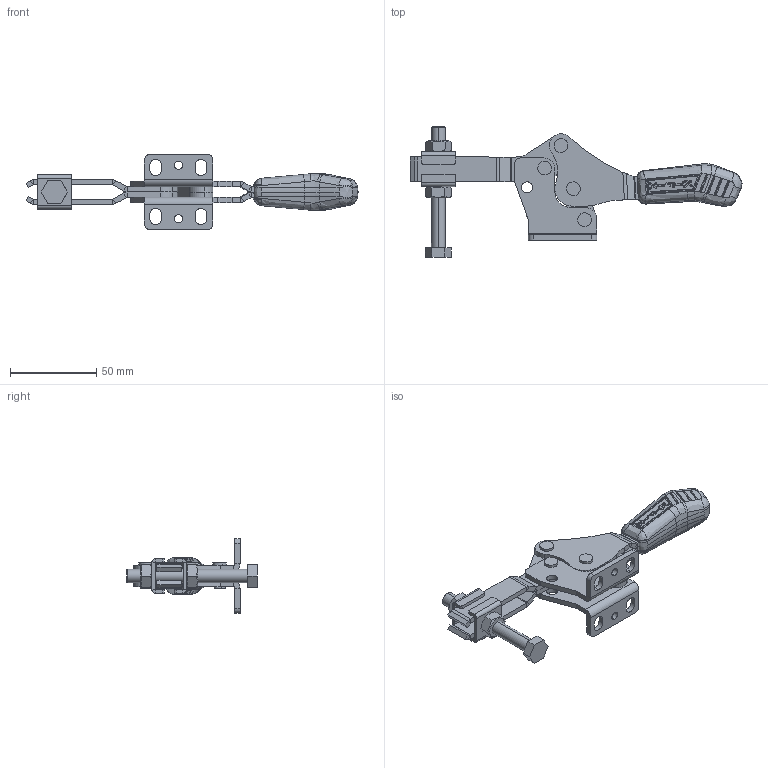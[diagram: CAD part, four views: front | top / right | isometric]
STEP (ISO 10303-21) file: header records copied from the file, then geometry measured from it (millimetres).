
FILE_DESCRIPTION (( 'STEP AP203' ), '1' );
FILE_NAME ('KF-722 D.STEP', '2018-03-06T11:27:25', ( 'Ricardo' ), ( '' ), 'SwSTEP 2.0', 'SolidWorks 2018', '' );
FILE_SCHEMA (( 'CONFIG_CONTROL_DESIGN' ));
Length unit declared in the file: millimetre
Products named in the file (14): 01.10315_esquerda; 14.10001; 02.12206; 11.50002; 02.12206_esquerda; PS-M8; 03.13072; KF-722 D; 03.13072_esquerda; 08.10118; 3670000103; 07.60005; 01.10315; 12.50020
Assembly tree (19 placements, depth 3):
  KF-722 D
    01.10315
    01.10315_esquerda
    02.12206
    02.12206_esquerda
    03.13072
    03.13072_esquerda
    08.10118  x2
    3670000103  x4
    07.60005
    PS-M8
      12.50020
      14.10001  x2
      11.50002  x2
Bounding box: 192 x 75.31 x 43.2 mm (x, y, z)
Volume: 58001.9 mm3; surface area: 41412.4 mm2
Topology: 18 solids, 18 shells, 1008 faces, 2526 edges, 1573 vertices
Faces by surface type: cylinder 338, plane 325, bspline 273, sphere 50, cone 20, torus 2
Entity records: 36356 total; most frequent: CARTESIAN_POINT 14760, ORIENTED_EDGE 4706, DIRECTION 3434, EDGE_CURVE 2353, VERTEX_POINT 1467, AXIS2_PLACEMENT_3D 1261, EDGE_LOOP 998, ADVANCED_FACE 930
